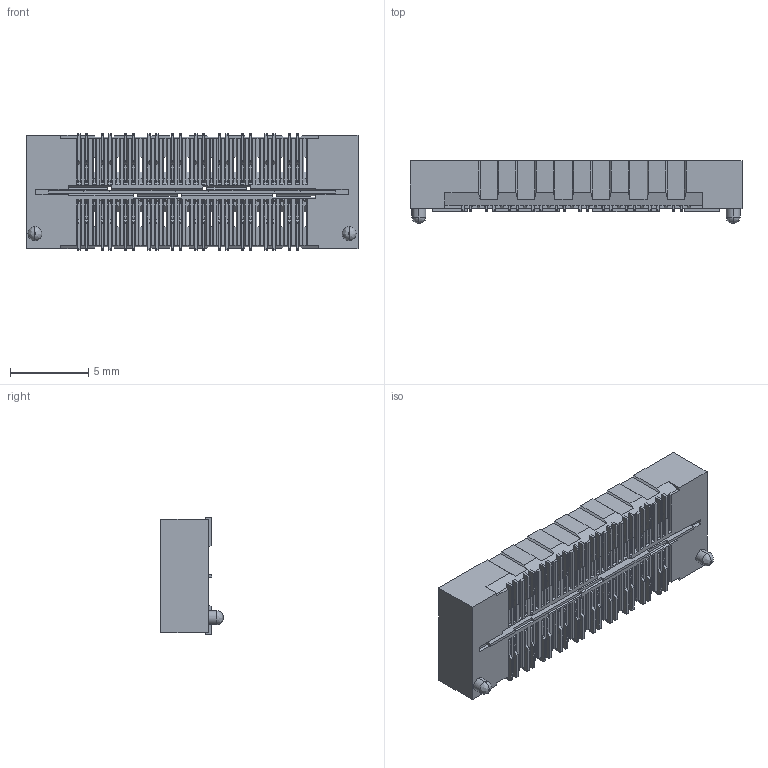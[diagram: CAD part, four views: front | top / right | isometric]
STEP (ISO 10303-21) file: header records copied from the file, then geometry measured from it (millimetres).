
FILE_DESCRIPTION (( 'STEP AP203' ), '1' );
FILE_NAME ('GT-B0507FSV32-40B0401.STEP', '2025-12-31T01:38:51', ( '' ), ( '' ), 'SwSTEP 2.0', 'SolidWorks 2020', '' );
FILE_SCHEMA (( 'CONFIG_CONTROL_DESIGN' ));
Length unit declared in the file: millimetre
Products named in the file (1): GT-B0507FSV32-40B0401
Bounding box: 21.27 x 4 x 7.49 mm (x, y, z)
Volume: 262.1 mm3; surface area: 1489.6 mm2
Topology: 1 solids, 1 shells, 6654 faces, 20391 edges, 13513 vertices
Faces by surface type: plane 6373, cylinder 206, bspline 75
Entity records: 231788 total; most frequent: CARTESIAN_POINT 57961, ORIENTED_EDGE 40782, DIRECTION 29359, EDGE_CURVE 20391, LINE 15453, VECTOR 15453, VERTEX_POINT 13513, AXIS2_PLACEMENT_3D 6953
